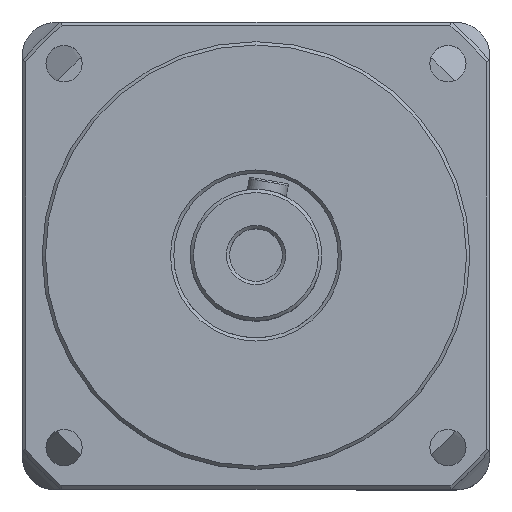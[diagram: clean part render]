
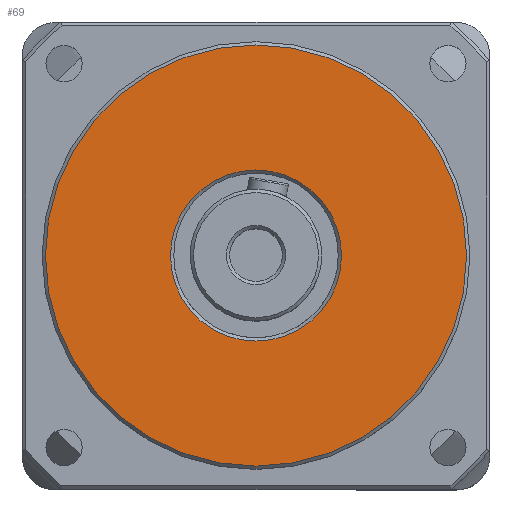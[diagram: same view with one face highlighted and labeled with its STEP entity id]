
A CAD part, top view. The second image highlights one B-rep face of the part: STEP entity #69.
In plain terms, the highlighted planar face has unit normal (0, 0, 1).
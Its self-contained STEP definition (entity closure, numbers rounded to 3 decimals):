
#69 = ADVANCED_FACE ( 'NONE', ( #984, #1332 ), #1727, .F. ) ;
#202 = DIRECTION ( 'NONE',  ( 0., 0., 1. ) ) ;
#303 = AXIS2_PLACEMENT_3D ( 'NONE', #1264, #805, #353 ) ;
#353 = DIRECTION ( 'NONE',  ( -1., 0., 0. ) ) ;
#654 = CARTESIAN_POINT ( 'NONE',  ( 0., 0., 146.5 ) ) ;
#805 = DIRECTION ( 'NONE',  ( 0., 0., -1. ) ) ;
#874 = DIRECTION ( 'NONE',  ( -1., 0., 0. ) ) ;
#984 = FACE_OUTER_BOUND ( 'NONE', #2650, .T. ) ;
#1040 = AXIS2_PLACEMENT_3D ( 'NONE', #3204, #1334, #874 ) ;
#1264 = CARTESIAN_POINT ( 'NONE',  ( 0., 0., 146.5 ) ) ;
#1332 = FACE_BOUND ( 'NONE', #4066, .T. ) ;
#1334 = DIRECTION ( 'NONE',  ( 0., 0., -1. ) ) ;
#1430 = CARTESIAN_POINT ( 'NONE',  ( -64., 0., 146.5 ) ) ;
#1727 = PLANE ( 'NONE',  #303 ) ;
#1905 = VERTEX_POINT ( 'NONE', #1430 ) ;
#1997 = CIRCLE ( 'NONE', #2787, 64. ) ;
#2650 = EDGE_LOOP ( 'NONE', ( #3829 ) ) ;
#2702 = CARTESIAN_POINT ( 'NONE',  ( -26., 0., 146.5 ) ) ;
#2787 = AXIS2_PLACEMENT_3D ( 'NONE', #654, #202, #4272 ) ;
#2843 = EDGE_CURVE ( 'NONE', #3168, #3168, #3698, .T. ) ;
#3168 = VERTEX_POINT ( 'NONE', #2702 ) ;
#3204 = CARTESIAN_POINT ( 'NONE',  ( 0., 0., 146.5 ) ) ;
#3224 = ORIENTED_EDGE ( 'NONE', *, *, #2843, .T. ) ;
#3698 = CIRCLE ( 'NONE', #1040, 26. ) ;
#3829 = ORIENTED_EDGE ( 'NONE', *, *, #4102, .T. ) ;
#4066 = EDGE_LOOP ( 'NONE', ( #3224 ) ) ;
#4102 = EDGE_CURVE ( 'NONE', #1905, #1905, #1997, .T. ) ;
#4272 = DIRECTION ( 'NONE',  ( -1., 0., 0. ) ) ;
